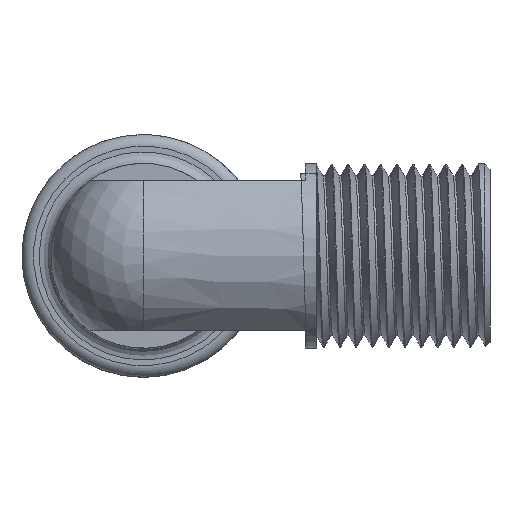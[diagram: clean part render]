
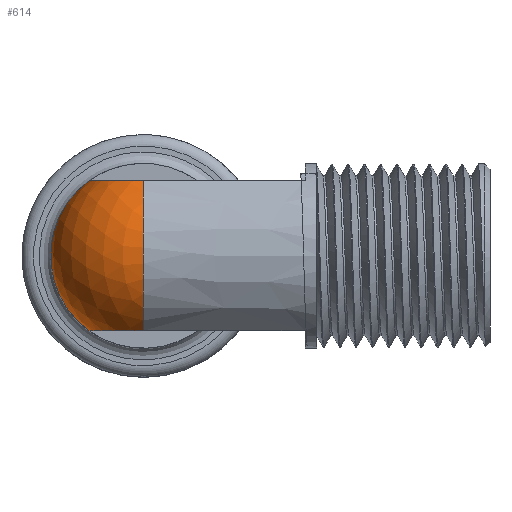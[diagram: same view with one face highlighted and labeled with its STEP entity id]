
A CAD part, top view. The second image highlights one B-rep face of the part: STEP entity #614.
In plain terms, the highlighted spherical face has radius 8 mm.
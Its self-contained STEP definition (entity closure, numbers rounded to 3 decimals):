
#127=SPHERICAL_SURFACE('',#2037,8.);
#134=FACE_OUTER_BOUND('',#880,.T.);
#614=ADVANCED_FACE('',(#134),#127,.T.);
#880=EDGE_LOOP('',(#1117,#1118,#1119,#1120));
#1117=ORIENTED_EDGE('',*,*,#1739,.F.);
#1118=ORIENTED_EDGE('',*,*,#1807,.T.);
#1119=ORIENTED_EDGE('',*,*,#1780,.F.);
#1120=ORIENTED_EDGE('',*,*,#1727,.F.);
#1543=VERTEX_POINT('',#2657);
#1544=VERTEX_POINT('',#2659);
#1555=VERTEX_POINT('',#2741);
#1594=VERTEX_POINT('',#2964);
#1727=EDGE_CURVE('',#1543,#1544,#1982,.T.);
#1739=EDGE_CURVE('',#1555,#1543,#1984,.T.);
#1780=EDGE_CURVE('',#1544,#1594,#1985,.T.);
#1807=EDGE_CURVE('',#1555,#1594,#1989,.T.);
#1982=CIRCLE('',#2020,8.);
#1984=CIRCLE('',#2022,4.664);
#1985=CIRCLE('',#2024,4.664);
#1989=CIRCLE('',#2032,8.);
#2020=AXIS2_PLACEMENT_3D('',#2658,#2158,#2159);
#2022=AXIS2_PLACEMENT_3D('',#2740,#2163,#2164);
#2024=AXIS2_PLACEMENT_3D('',#2963,#2169,#2170);
#2032=AXIS2_PLACEMENT_3D('',#3152,#2190,#2191);
#2037=AXIS2_PLACEMENT_3D('',#3191,#2200,#2201);
#2158=DIRECTION('',(1.,0.,0.));
#2159=DIRECTION('',(0.,0.,-1.));
#2163=DIRECTION('',(0.,1.,0.));
#2164=DIRECTION('',(-1.,0.,0.));
#2169=DIRECTION('',(0.,-1.,0.));
#2170=DIRECTION('',(0.,0.,-1.));
#2190=DIRECTION('',(0.,0.,1.));
#2191=DIRECTION('',(1.,0.,0.));
#2200=DIRECTION('',(0.707,0.,0.707));
#2201=DIRECTION('',(0.,1.,0.));
#2657=CARTESIAN_POINT('',(0.,6.5,24.664));
#2658=CARTESIAN_POINT('',(0.,0.,20.));
#2659=CARTESIAN_POINT('',(0.,-6.5,24.664));
#2740=CARTESIAN_POINT('',(0.,6.5,20.));
#2741=CARTESIAN_POINT('',(-4.664,6.5,20.));
#2963=CARTESIAN_POINT('',(0.,-6.5,20.));
#2964=CARTESIAN_POINT('',(-4.664,-6.5,20.));
#3152=CARTESIAN_POINT('',(0.,0.,20.));
#3191=CARTESIAN_POINT('',(0.,0.,20.));
